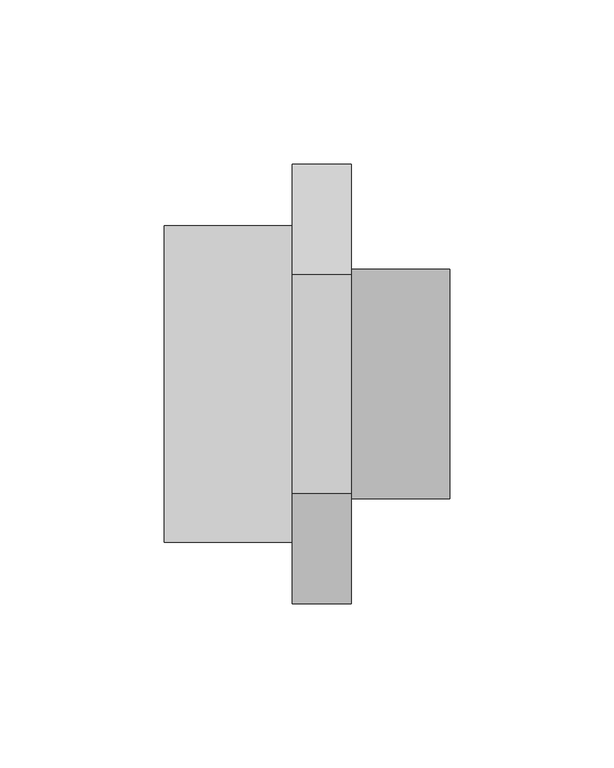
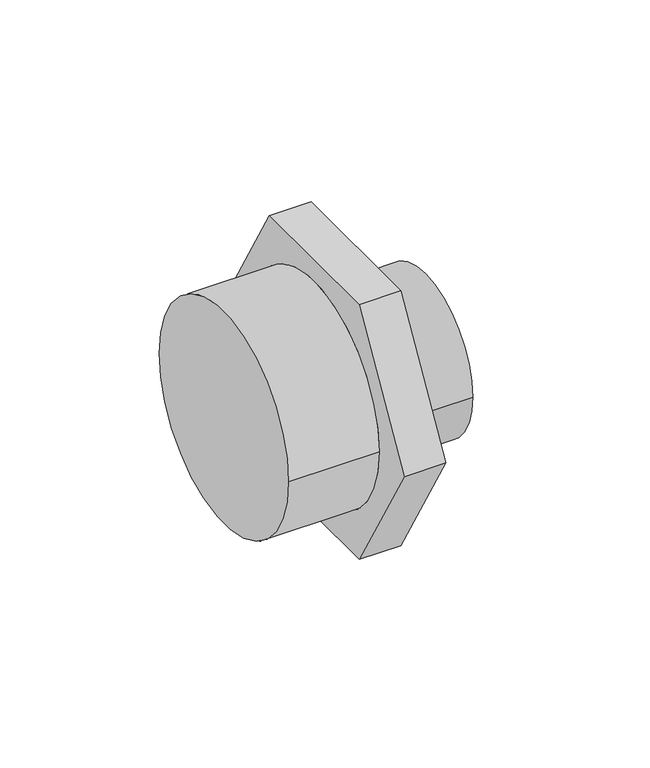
"""IFC4 building model written with IfcOpenShell, lengths in millimetres: pipe fitting geometry, 01011197 : Casquilho Duplo Redução."""

from ifc_helpers import new_model, si_unit, frame, origin, place, context, project, spatial, circle_curve, source, transform, mapped, element, save
from ifc_brep_helpers import plane_surface, cylinder_surface, advanced_brep


def pipe_fitting_b43c4fc3(model_context):
    return source(origin(), model_context, "Body", "AdvancedBrep", [
        advanced_brep(
        [(57.0, -33.4863156, 58.0), (57.0, -66.9726312, 0.0), (57.0, -33.4863156, -58.0), (57.0, 33.4863156, -58.0), (57.0, 66.9726312, 0.0), (57.0, 33.4863156, 58.0), (57.0, -34.925, 0.0), (57.0, 34.925, 0.0), (39.0, -33.4863156, 58.0), (39.0, 33.4863156, 58.0), (39.0, 66.9726312, 0.0), (39.0, 33.4863156, -58.0), (39.0, -33.4863156, -58.0), (39.0, -66.9726312, 0.0), (39.0, 48.26, 0.0), (39.0, -48.26, 0.0), (87.0, -34.925, 0.0), (87.0, 34.925, 0.0), (0.0, 48.26, 0.0), (0.0, -48.26, 0.0)],
        [
            (0, 1),
            (1, 2),
            (2, 3),
            (3, 4),
            (4, 5),
            (5, 0),
            (6, 7, circle_curve(frame((57.0, 0.0, 0.0), z_axis=(-1.0, 0.0, 0.0), x_axis=(0.0, 1.0, 0.0)), 34.925)),
            (7, 6, circle_curve(frame((57.0, 0.0, 0.0), z_axis=(-1.0, 0.0, 0.0), x_axis=(0.0, 1.0, 0.0)), 34.925)),
            (8, 9),
            (9, 10),
            (10, 11),
            (11, 12),
            (12, 13),
            (13, 8),
            (14, 15, circle_curve(frame((39.0, 0.0, 0.0), z_axis=(1.0, 0.0, 0.0), x_axis=(0.0, -1.0, 0.0)), 48.26)),
            (15, 14, circle_curve(frame((39.0, 0.0, 0.0), z_axis=(1.0, 0.0, 0.0), x_axis=(0.0, -1.0, 0.0)), 48.26)),
            (0, 8),
            (13, 1),
            (12, 2),
            (11, 3),
            (10, 4),
            (9, 5),
            (16, 17, circle_curve(frame((87.0, 0.0, 0.0), z_axis=(1.0, 0.0, 0.0), x_axis=(0.0, 1.0, 0.0)), 34.925)),
            (17, 16, circle_curve(frame((87.0, 0.0, 0.0), z_axis=(1.0, 0.0, 0.0), x_axis=(0.0, 1.0, 0.0)), 34.925)),
            (17, 7),
            (6, 16),
            (18, 19, circle_curve(frame((0.0, 0.0, 0.0), z_axis=(-1.0, 0.0, 0.0), x_axis=(0.0, -1.0, 0.0)), 48.26)),
            (19, 18, circle_curve(frame((0.0, 0.0, 0.0), z_axis=(-1.0, 0.0, 0.0), x_axis=(0.0, -1.0, 0.0)), 48.26)),
            (19, 15),
            (14, 18),
        ],
        [
            plane_surface(frame((57.0, -33.4863156, 58.0), z_axis=(1.0, 0.0, 0.0), x_axis=(0.0, -0.500000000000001, -0.866025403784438))),
            plane_surface(frame((39.0, -33.4863156, 58.0), z_axis=(-1.0, 0.0, 0.0), x_axis=(0.0, 0.500000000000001, 0.866025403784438))),
            plane_surface(frame((57.0, -33.4863156, 58.0), z_axis=(0.0, -0.866025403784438, 0.500000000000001), x_axis=(-1.0, 0.0, 0.0))),
            plane_surface(frame((57.0, -66.9726312, 0.0), z_axis=(0.0, -0.866025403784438, -0.5000000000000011), x_axis=(-1.0, 0.0, 0.0))),
            plane_surface(frame((57.0, -33.4863156, -58.0), z_axis=(0.0, 0.0, -1.0), x_axis=(-1.0, 0.0, 0.0))),
            plane_surface(frame((57.0, 33.4863156, -58.0), z_axis=(0.0, 0.8660254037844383, -0.5000000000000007), x_axis=(-1.0, 0.0, 0.0))),
            plane_surface(frame((57.0, 66.9726312, 0.0), z_axis=(0.0, 0.8660254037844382, 0.500000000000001), x_axis=(-1.0, 0.0, 0.0))),
            plane_surface(frame((57.0, 33.4863156, 58.0), z_axis=(0.0, 0.0, 1.0), x_axis=(-1.0, 0.0, 0.0))),
            plane_surface(frame((87.0, 0.0, 0.0), z_axis=(1.0, 0.0, 0.0), x_axis=(0.0, 0.0, 1.0))),
            cylinder_surface(frame((57.0, 0.0, 0.0), z_axis=(-1.0, 0.0, 0.0), x_axis=(0.0, 1.0, 0.0)), 34.925),
            plane_surface(frame((0.0, 0.0, 0.0), z_axis=(-1.0, 0.0, 0.0), x_axis=(0.0, 0.0, 1.0))),
            cylinder_surface(frame((39.0, 0.0, 0.0), z_axis=(1.0, 0.0, 0.0), x_axis=(0.0, -1.0, 0.0)), 48.26),
        ],
        [
            (0, [[1, 2, 3, 4, 5, 6], [7, 8]]),
            (1, [[9, 10, 11, 12, 13, 14], [15, 16]]),
            (2, [[-1, 17, -14, 18]]),
            (3, [[-2, -18, -13, 19]]),
            (4, [[-3, -19, -12, 20]]),
            (5, [[-4, -20, -11, 21]]),
            (6, [[-5, -21, -10, 22]]),
            (7, [[-6, -22, -9, -17]]),
            (8, [[23, 24]]),
            (9, [[-24, 25, -7, 26]]),
            (9, [[-23, -26, -8, -25]]),
            (10, [[27, 28]]),
            (11, [[-28, 29, -15, 30]]),
            (11, [[-27, -30, -16, -29]]),
        ],
    ),
    ])


if __name__ == "__main__":
    model = new_model("IFC4")
    model_context = context("Model", 3, world=origin())
    ifc_project = project(units=[si_unit("LENGTHUNIT", "METRE", prefix="MILLI")], contexts=[model_context])
    site = spatial("IfcSite", under=ifc_project)
    building = spatial("IfcBuilding", under=site)
    placement = place(None, origin())
    pipe_fitting_shape = pipe_fitting_b43c4fc3(model_context)
    element("IfcPipeFitting", 1, ObjectType="01011197 : Casquilho Duplo Redução", at=placement, inside=building, context=model_context, shape_type="MappedRepresentation", body=[
        mapped(pipe_fitting_shape, transform((0.0, 0.0, 0.0), x_axis=(1.0, 0.0, 0.0), y_axis=(0.0, 1.0, 0.0), z_axis=(0.0, 0.0, 1.0))),
    ])
    save(model, "model.ifc")
